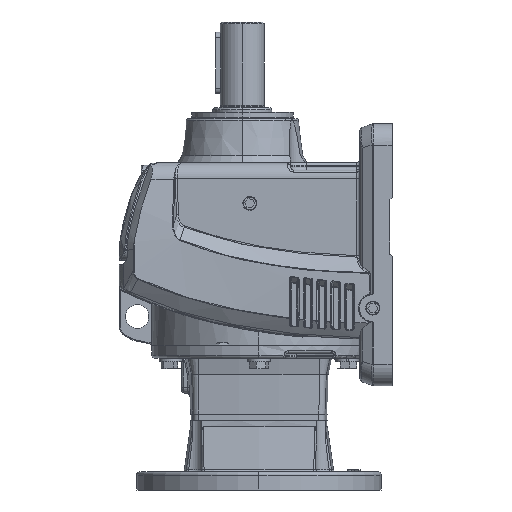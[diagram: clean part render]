
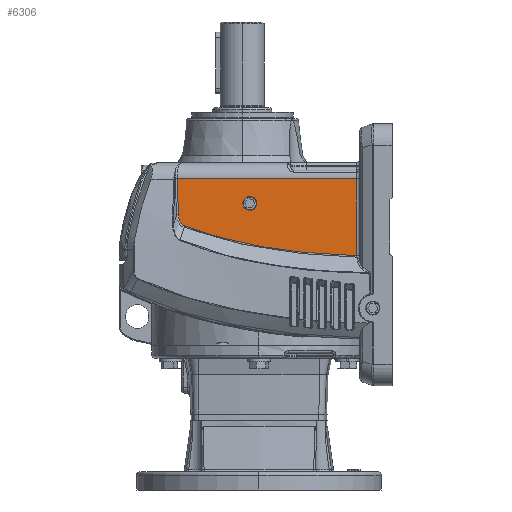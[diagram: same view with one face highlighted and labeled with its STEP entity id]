
A CAD part, left-side view. The second image highlights one B-rep face of the part: STEP entity #6306.
In plain terms, the highlighted planar face has unit normal (-1, 0, 0).
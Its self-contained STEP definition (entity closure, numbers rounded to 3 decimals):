
#49 = B_SPLINE_CURVE_WITH_KNOTS ( 'NONE', 3,
 ( #35001, #35002, #35003, #35004, #35005, #35006, #35007, #35008, #35009, #35010 ),
 .UNSPECIFIED., .F., .F.,
 ( 4, 2, 2, 2, 4 ),
 ( 0., 0.025, 0.038, 0.044, 0.051 ),
 .UNSPECIFIED. ) ;
#50 = B_SPLINE_CURVE_WITH_KNOTS ( 'NONE', 3,
 ( #35014, #35015, #35016, #35017, #35018, #35019, #35020, #35021, #35022, #35023, #35024, #35025, #35026, #35027, #35028, #35029 ),
 .UNSPECIFIED., .F., .F.,
 ( 4, 2, 2, 2, 2, 2, 2, 4 ),
 ( 0., 0.014, 0.028, 0.043, 0.057, 0.071, 0.085, 0.114 ),
 .UNSPECIFIED. ) ;
#51 = B_SPLINE_CURVE_WITH_KNOTS ( 'NONE', 3,
 ( #35033, #35034, #35035, #35036, #35037, #35038, #35039, #35040, #35041, #35042, #35043, #35044, #35045, #35046, #35047, #35048, #35049, #35050 ),
 .UNSPECIFIED., .F., .F.,
 ( 4, 2, 2, 2, 2, 2, 2, 2, 4 ),
 ( 0., 0.003, 0.005, 0.006, 0.008, 0.009, 0.009, 0.011, 0.012 ),
 .UNSPECIFIED. ) ;
#52 = B_SPLINE_CURVE_WITH_KNOTS ( 'NONE', 3,
 ( #35064, #35065, #35066, #35067 ),
 .UNSPECIFIED., .F., .F.,
 ( 4, 4 ),
 ( 0., 0.034 ),
 .UNSPECIFIED. ) ;
#1027 = DIRECTION ( 'NONE',  ( 0., 0., 1. ) ) ;
#1028 = DIRECTION ( 'NONE',  ( -1., 0., 0. ) ) ;
#1029 = CARTESIAN_POINT ( 'NONE',  ( -100., 137., -33.5 ) ) ;
#6306 = ADVANCED_FACE ( 'NONE', ( #55404, #55403 ), #64799, .T. ) ;
#13836 = ORIENTED_EDGE ( 'NONE', *, *, #63226, .T. ) ;
#13837 = ORIENTED_EDGE ( 'NONE', *, *, #63208, .T. ) ;
#13839 = ORIENTED_EDGE ( 'NONE', *, *, #63212, .T. ) ;
#13841 = ORIENTED_EDGE ( 'NONE', *, *, #63218, .T. ) ;
#13843 = ORIENTED_EDGE ( 'NONE', *, *, #63234, .T. ) ;
#13845 = ORIENTED_EDGE ( 'NONE', *, *, #43694, .F. ) ;
#13846 = ORIENTED_EDGE ( 'NONE', *, *, #63230, .F. ) ;
#13848 = ORIENTED_EDGE ( 'NONE', *, *, #63210, .T. ) ;
#17537 = CARTESIAN_POINT ( 'NONE',  ( -100., 204.975, -10.5 ) ) ;
#17539 = CARTESIAN_POINT ( 'NONE',  ( -100., 203.682, -44.307 ) ) ;
#17541 = CARTESIAN_POINT ( 'NONE',  ( -100., 198.045, -54.652 ) ) ;
#17542 = CARTESIAN_POINT ( 'NONE',  ( -100., 87.405, -79.257 ) ) ;
#17545 = CARTESIAN_POINT ( 'NONE',  ( -100., 37., -82.481 ) ) ;
#17628 = CARTESIAN_POINT ( 'NONE',  ( -100., 37., -10.5 ) ) ;
#23545 = CIRCLE ( 'NONE', #23710, 6.244 ) ;
#23710 = AXIS2_PLACEMENT_3D ( 'NONE', #1029, #1028, #1027 ) ;
#31436 = VERTEX_POINT ( 'NONE', #63969 ) ;
#31437 = VERTEX_POINT ( 'NONE', #63968 ) ;
#32194 = EDGE_LOOP ( 'NONE', ( #13846, #13845 ) ) ;
#32199 = EDGE_LOOP ( 'NONE', ( #13843, #13841, #13839, #13848, #13837, #13836 ) ) ;
#33322 = VERTEX_POINT ( 'NONE', #17628 ) ;
#33389 = VERTEX_POINT ( 'NONE', #17545 ) ;
#33391 = VERTEX_POINT ( 'NONE', #17542 ) ;
#33392 = VERTEX_POINT ( 'NONE', #17541 ) ;
#33394 = VERTEX_POINT ( 'NONE', #17539 ) ;
#33396 = VERTEX_POINT ( 'NONE', #17537 ) ;
#35001 = CARTESIAN_POINT ( 'NONE',  ( -100., 87.405, -79.257 ) ) ;
#35002 = CARTESIAN_POINT ( 'NONE',  ( -100., 79.026, -80.13 ) ) ;
#35003 = CARTESIAN_POINT ( 'NONE',  ( -100., 70.635, -80.826 ) ) ;
#35004 = CARTESIAN_POINT ( 'NONE',  ( -100., 58.034, -81.633 ) ) ;
#35005 = CARTESIAN_POINT ( 'NONE',  ( -100., 53.831, -81.862 ) ) ;
#35006 = CARTESIAN_POINT ( 'NONE',  ( -100., 47.523, -82.148 ) ) ;
#35007 = CARTESIAN_POINT ( 'NONE',  ( -100., 45.419, -82.234 ) ) ;
#35008 = CARTESIAN_POINT ( 'NONE',  ( -100., 41.211, -82.377 ) ) ;
#35009 = CARTESIAN_POINT ( 'NONE',  ( -100., 39.106, -82.435 ) ) ;
#35010 = CARTESIAN_POINT ( 'NONE',  ( -100., 37., -82.481 ) ) ;
#35014 = CARTESIAN_POINT ( 'NONE',  ( -100., 198.045, -54.652 ) ) ;
#35015 = CARTESIAN_POINT ( 'NONE',  ( -100., 193.622, -56.374 ) ) ;
#35016 = CARTESIAN_POINT ( 'NONE',  ( -100., 189.16, -57.971 ) ) ;
#35017 = CARTESIAN_POINT ( 'NONE',  ( -100., 180.175, -60.964 ) ) ;
#35018 = CARTESIAN_POINT ( 'NONE',  ( -100., 175.651, -62.358 ) ) ;
#35019 = CARTESIAN_POINT ( 'NONE',  ( -100., 166.549, -64.972 ) ) ;
#35020 = CARTESIAN_POINT ( 'NONE',  ( -100., 161.971, -66.19 ) ) ;
#35021 = CARTESIAN_POINT ( 'NONE',  ( -100., 152.767, -68.471 ) ) ;
#35022 = CARTESIAN_POINT ( 'NONE',  ( -100., 148.144, -69.531 ) ) ;
#35023 = CARTESIAN_POINT ( 'NONE',  ( -100., 138.88, -71.506 ) ) ;
#35024 = CARTESIAN_POINT ( 'NONE',  ( -100., 134.235, -72.42 ) ) ;
#35025 = CARTESIAN_POINT ( 'NONE',  ( -100., 124.924, -74.118 ) ) ;
#35026 = CARTESIAN_POINT ( 'NONE',  ( -100., 120.258, -74.902 ) ) ;
#35027 = CARTESIAN_POINT ( 'NONE',  ( -100., 106.229, -77.07 ) ) ;
#35028 = CARTESIAN_POINT ( 'NONE',  ( -100., 96.835, -78.274 ) ) ;
#35029 = CARTESIAN_POINT ( 'NONE',  ( -100., 87.405, -79.257 ) ) ;
#35033 = CARTESIAN_POINT ( 'NONE',  ( -100., 203.682, -44.307 ) ) ;
#35034 = CARTESIAN_POINT ( 'NONE',  ( -100., 203.649, -45.348 ) ) ;
#35035 = CARTESIAN_POINT ( 'NONE',  ( -100., 203.533, -46.375 ) ) ;
#35036 = CARTESIAN_POINT ( 'NONE',  ( -100., 203.212, -47.887 ) ) ;
#35037 = CARTESIAN_POINT ( 'NONE',  ( -100., 203.079, -48.387 ) ) ;
#35038 = CARTESIAN_POINT ( 'NONE',  ( -100., 202.756, -49.376 ) ) ;
#35039 = CARTESIAN_POINT ( 'NONE',  ( -100., 202.565, -49.863 ) ) ;
#35040 = CARTESIAN_POINT ( 'NONE',  ( -100., 202.123, -50.801 ) ) ;
#35041 = CARTESIAN_POINT ( 'NONE',  ( -100., 201.871, -51.253 ) ) ;
#35042 = CARTESIAN_POINT ( 'NONE',  ( -100., 201.438, -51.903 ) ) ;
#35043 = CARTESIAN_POINT ( 'NONE',  ( -100., 201.284, -52.115 ) ) ;
#35044 = CARTESIAN_POINT ( 'NONE',  ( -100., 200.959, -52.523 ) ) ;
#35045 = CARTESIAN_POINT ( 'NONE',  ( -100., 200.789, -52.719 ) ) ;
#35046 = CARTESIAN_POINT ( 'NONE',  ( -100., 200.252, -53.281 ) ) ;
#35047 = CARTESIAN_POINT ( 'NONE',  ( -100., 199.86, -53.62 ) ) ;
#35048 = CARTESIAN_POINT ( 'NONE',  ( -100., 198.995, -54.215 ) ) ;
#35049 = CARTESIAN_POINT ( 'NONE',  ( -100., 198.535, -54.461 ) ) ;
#35050 = CARTESIAN_POINT ( 'NONE',  ( -100., 198.045, -54.652 ) ) ;
#35064 = CARTESIAN_POINT ( 'NONE',  ( -100., 204.975, -10.5 ) ) ;
#35065 = CARTESIAN_POINT ( 'NONE',  ( -100., 204.477, -21.766 ) ) ;
#35066 = CARTESIAN_POINT ( 'NONE',  ( -100., 204.04, -33.035 ) ) ;
#35067 = CARTESIAN_POINT ( 'NONE',  ( -100., 203.682, -44.307 ) ) ;
#35087 = CARTESIAN_POINT ( 'NONE',  ( -100., 37., -95.607 ) ) ;
#35088 = DIRECTION ( 'NONE',  ( 0., 0., 1. ) ) ;
#35094 = CARTESIAN_POINT ( 'NONE',  ( -100., 137., -33.5 ) ) ;
#35095 = DIRECTION ( 'NONE',  ( -1., 0., 0. ) ) ;
#35096 = DIRECTION ( 'NONE',  ( 0., 0., 1. ) ) ;
#35103 = CARTESIAN_POINT ( 'NONE',  ( -100., 4.772, -10.5 ) ) ;
#35104 = DIRECTION ( 'NONE',  ( 0., 1., 0. ) ) ;
#36628 = VECTOR ( 'NONE', #35088, 1000. ) ;
#36630 = CIRCLE ( 'NONE', #36632, 6.244 ) ;
#36632 = AXIS2_PLACEMENT_3D ( 'NONE', #35094, #35095, #35096 ) ;
#36636 = VECTOR ( 'NONE', #35104, 1000. ) ;
#36999 = AXIS2_PLACEMENT_3D ( 'NONE', #64797, #64795, #64793 ) ;
#39442 = LINE ( 'NONE', #35087, #36628 ) ;
#39444 = LINE ( 'NONE', #35103, #36636 ) ;
#43694 = EDGE_CURVE ( 'NONE', #31436, #31437, #23545, .T. ) ;
#55403 = FACE_OUTER_BOUND ( 'NONE', #32199, .T. ) ;
#55404 = FACE_BOUND ( 'NONE', #32194, .T. ) ;
#63208 = EDGE_CURVE ( 'NONE', #33391, #33389, #49, .T. ) ;
#63210 = EDGE_CURVE ( 'NONE', #33392, #33391, #50, .T. ) ;
#63212 = EDGE_CURVE ( 'NONE', #33394, #33392, #51, .T. ) ;
#63218 = EDGE_CURVE ( 'NONE', #33396, #33394, #52, .T. ) ;
#63226 = EDGE_CURVE ( 'NONE', #33389, #33322, #39442, .T. ) ;
#63230 = EDGE_CURVE ( 'NONE', #31437, #31436, #36630, .T. ) ;
#63234 = EDGE_CURVE ( 'NONE', #33322, #33396, #39444, .T. ) ;
#63968 = CARTESIAN_POINT ( 'NONE',  ( -100., 137., -27.256 ) ) ;
#63969 = CARTESIAN_POINT ( 'NONE',  ( -100., 137., -39.744 ) ) ;
#64793 = DIRECTION ( 'NONE',  ( 0., 0., 1. ) ) ;
#64795 = DIRECTION ( 'NONE',  ( -1., 0., 0. ) ) ;
#64797 = CARTESIAN_POINT ( 'NONE',  ( -100., 4.772, -95.607 ) ) ;
#64799 = PLANE ( 'NONE',  #36999 ) ;
